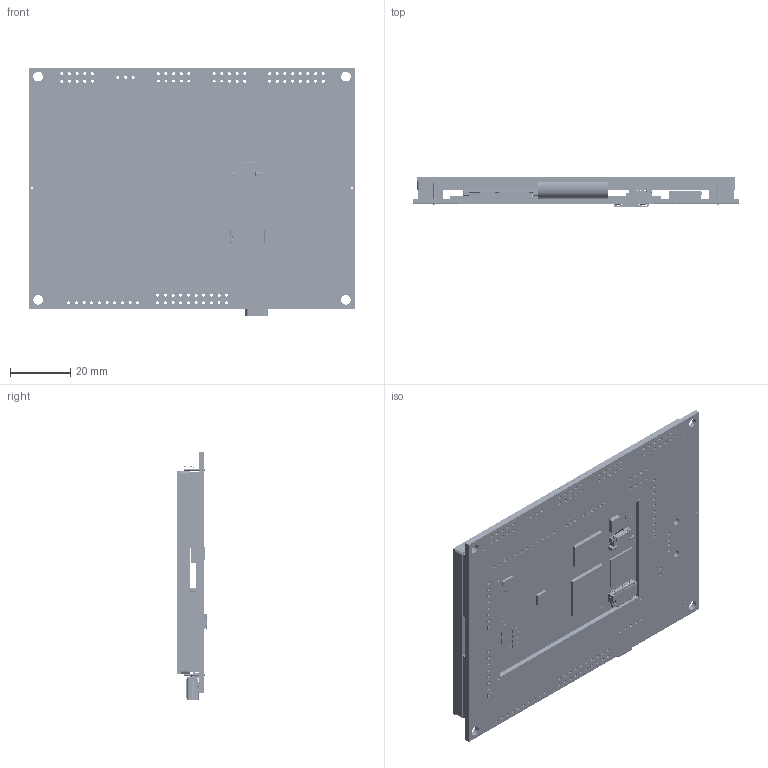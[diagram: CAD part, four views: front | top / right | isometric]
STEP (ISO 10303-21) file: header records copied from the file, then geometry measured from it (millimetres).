
FILE_DESCRIPTION (( 'STEP AP214' ), '1' );
FILE_NAME ('TW480x272C-K619SE4R2RU.STEP', '2015-02-18T10:42:17', ( '' ), ( '' ), 'SwSTEP 2.0', 'SolidWorks 2015', '' );
FILE_SCHEMA (( 'AUTOMOTIVE_DESIGN' ));
Length unit declared in the file: millimetre
Products named in the file (18): pn28 pcb; MOLEX - 54819-0572 - Mini USB; resistive touch panel; tw43 NT; TW480x272C-K619SE4R2RU; Micro SD; pn28; 40 pin connector; micro sd connector; lcd connector
Assembly tree (9 placements, depth 3):
  pn28 pcb
  MOLEX - 54819-0572 - Mini USB
  resistive touch panel
  tw43 NT
  TW480x272C-K619SE4R2RU
    tw43 NT
    resistive touch panel
    MOLEX - 54819-0572 - Mini USB
    pn28
      pn28 pcb
      lcd connector
      micro sd connector
      40 pin connector
    Micro SD
Bounding box: 108 x 9.65 x 82.5 mm (x, y, z)
Volume: 44967.2 mm3; surface area: 54499.4 mm2
Topology: 11 solids, 12 shells, 4808 faces, 12490 edges, 8208 vertices
Faces by surface type: plane 2903, cylinder 1830, bspline 75
Entity records: 177099 total; most frequent: CARTESIAN_POINT 27475, DIRECTION 25486, ORIENTED_EDGE 24851, EDGE_CURVE 12458, LINE 8582, VECTOR 8582, AXIS2_PLACEMENT_3D 8452, VERTEX_POINT 8208
